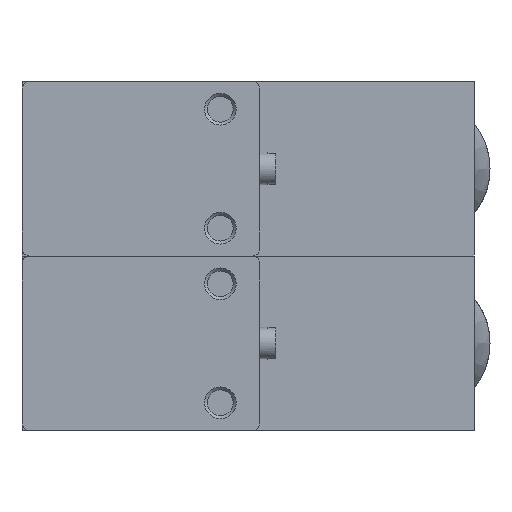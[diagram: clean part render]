
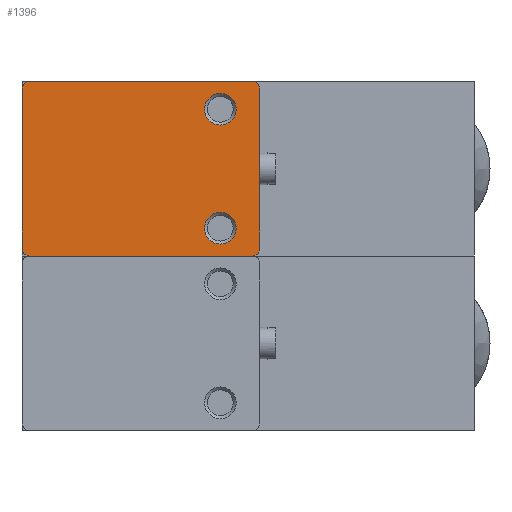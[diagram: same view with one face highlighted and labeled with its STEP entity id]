
A CAD part, front view. The second image highlights one B-rep face of the part: STEP entity #1396.
In plain terms, the highlighted planar face has unit normal (0, -1, 0).
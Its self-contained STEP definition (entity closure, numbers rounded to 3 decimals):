
#49=FACE_BOUND('',#200,.T.);
#50=FACE_BOUND('',#201,.T.);
#100=FACE_OUTER_BOUND('',#199,.T.);
#199=EDGE_LOOP('',(#987,#988,#989,#990,#991,#992,#993,#994));
#200=EDGE_LOOP('',(#995));
#201=EDGE_LOOP('',(#996));
#301=LINE('',#2208,#422);
#307=LINE('',#2221,#428);
#311=LINE('',#2236,#432);
#313=LINE('',#2245,#434);
#422=VECTOR('',#1751,1000.);
#428=VECTOR('',#1759,1000.);
#432=VECTOR('',#1771,1000.);
#434=VECTOR('',#1779,1000.);
#559=CIRCLE('',#1579,1.);
#560=CIRCLE('',#1580,1.);
#561=CIRCLE('',#1581,1.);
#562=CIRCLE('',#1582,1.);
#563=CIRCLE('',#1583,2.);
#564=CIRCLE('',#1584,2.);
#621=VERTEX_POINT('',#2206);
#622=VERTEX_POINT('',#2207);
#627=VERTEX_POINT('',#2218);
#628=VERTEX_POINT('',#2220);
#634=VERTEX_POINT('',#2233);
#635=VERTEX_POINT('',#2235);
#638=VERTEX_POINT('',#2243);
#639=VERTEX_POINT('',#2244);
#649=VERTEX_POINT('',#2275);
#650=VERTEX_POINT('',#2277);
#753=EDGE_CURVE('',#621,#622,#301,.T.);
#759=EDGE_CURVE('',#627,#628,#307,.T.);
#766=EDGE_CURVE('',#634,#635,#311,.T.);
#770=EDGE_CURVE('',#638,#639,#313,.T.);
#785=EDGE_CURVE('',#627,#622,#559,.F.);
#786=EDGE_CURVE('',#621,#639,#560,.F.);
#787=EDGE_CURVE('',#638,#635,#561,.F.);
#788=EDGE_CURVE('',#634,#628,#562,.F.);
#789=EDGE_CURVE('',#649,#649,#563,.T.);
#790=EDGE_CURVE('',#650,#650,#564,.T.);
#987=ORIENTED_EDGE('',*,*,#759,.F.);
#988=ORIENTED_EDGE('',*,*,#785,.T.);
#989=ORIENTED_EDGE('',*,*,#753,.F.);
#990=ORIENTED_EDGE('',*,*,#786,.T.);
#991=ORIENTED_EDGE('',*,*,#770,.F.);
#992=ORIENTED_EDGE('',*,*,#787,.T.);
#993=ORIENTED_EDGE('',*,*,#766,.F.);
#994=ORIENTED_EDGE('',*,*,#788,.T.);
#995=ORIENTED_EDGE('',*,*,#789,.T.);
#996=ORIENTED_EDGE('',*,*,#790,.T.);
#1332=PLANE('',#1578);
#1396=ADVANCED_FACE('',(#100,#49,#50),#1332,.F.);
#1578=AXIS2_PLACEMENT_3D('',#2270,#1803,#1804);
#1579=AXIS2_PLACEMENT_3D('',#2271,#1805,#1806);
#1580=AXIS2_PLACEMENT_3D('',#2272,#1807,#1808);
#1581=AXIS2_PLACEMENT_3D('',#2273,#1809,#1810);
#1582=AXIS2_PLACEMENT_3D('',#2274,#1811,#1812);
#1583=AXIS2_PLACEMENT_3D('',#2276,#1813,#1814);
#1584=AXIS2_PLACEMENT_3D('',#2278,#1815,#1816);
#1751=DIRECTION('',(0.,0.,1.));
#1759=DIRECTION('',(1.,0.,0.));
#1771=DIRECTION('',(0.,0.,-1.));
#1779=DIRECTION('',(-1.,0.,0.));
#1803=DIRECTION('center_axis',(0.,1.,0.));
#1804=DIRECTION('ref_axis',(0.,0.,1.));
#1805=DIRECTION('center_axis',(0.,1.,0.));
#1806=DIRECTION('ref_axis',(0.,0.,1.));
#1807=DIRECTION('center_axis',(0.,1.,0.));
#1808=DIRECTION('ref_axis',(0.,0.,1.));
#1809=DIRECTION('center_axis',(0.,1.,0.));
#1810=DIRECTION('ref_axis',(0.,0.,1.));
#1811=DIRECTION('center_axis',(0.,1.,0.));
#1812=DIRECTION('ref_axis',(0.,0.,1.));
#1813=DIRECTION('center_axis',(0.,1.,0.));
#1814=DIRECTION('ref_axis',(0.,0.,1.));
#1815=DIRECTION('center_axis',(0.,1.,0.));
#1816=DIRECTION('ref_axis',(0.,0.,1.));
#2206=CARTESIAN_POINT('',(0.,0.,1.));
#2207=CARTESIAN_POINT('',(0.,0.,21.));
#2208=CARTESIAN_POINT('',(0.,0.,0.));
#2218=CARTESIAN_POINT('',(1.,0.,22.));
#2220=CARTESIAN_POINT('',(29.,0.,22.));
#2221=CARTESIAN_POINT('',(0.,0.,22.));
#2233=CARTESIAN_POINT('',(30.,0.,21.));
#2235=CARTESIAN_POINT('',(30.,0.,1.));
#2236=CARTESIAN_POINT('',(30.,0.,22.));
#2243=CARTESIAN_POINT('',(29.,0.,0.));
#2244=CARTESIAN_POINT('',(1.,0.,0.));
#2245=CARTESIAN_POINT('',(30.,0.,0.));
#2270=CARTESIAN_POINT('Origin',(0.,0.,0.));
#2271=CARTESIAN_POINT('Origin',(1.,0.,21.));
#2272=CARTESIAN_POINT('Origin',(1.,0.,1.));
#2273=CARTESIAN_POINT('Origin',(29.,0.,1.));
#2274=CARTESIAN_POINT('Origin',(29.,0.,21.));
#2275=CARTESIAN_POINT('',(25.,0.,20.5));
#2276=CARTESIAN_POINT('Origin',(25.,0.,18.5));
#2277=CARTESIAN_POINT('',(25.,0.,5.5));
#2278=CARTESIAN_POINT('Origin',(25.,0.,3.5));
